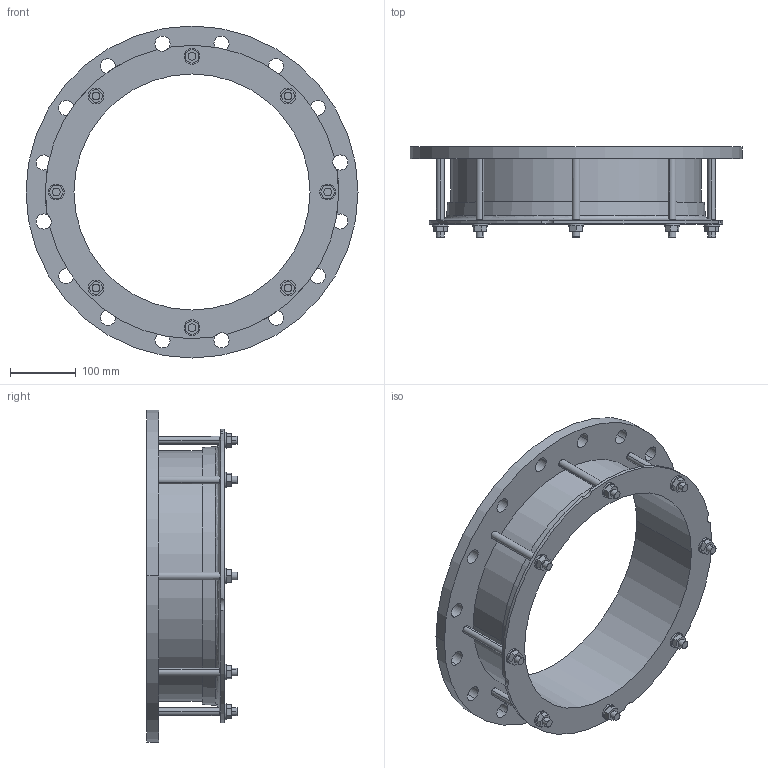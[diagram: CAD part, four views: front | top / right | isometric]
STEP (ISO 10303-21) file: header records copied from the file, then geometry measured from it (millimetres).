
FILE_DESCRIPTION((''),'2;1');
FILE_NAME('355X350PN10_4NOT','2019-01-16T',('mfairey'),('Glynwed Pipe Systems'),'CREO PARAMETRIC BY PTC INC, 2016130','CREO PARAMETRIC BY PTC INC, 2016130','');
FILE_SCHEMA(('CONFIG_CONTROL_DESIGN'));
Length unit declared in the file: millimetre
Products named in the file (1): 355X350PN10_4NOT
Bounding box: 505 x 137.45 x 505 mm (x, y, z)
Volume: 3527149.1 mm3; surface area: 599005.2 mm2
Topology: 1 solids, 1 shells, 176 faces, 466 edges, 310 vertices
Faces by surface type: cylinder 94, plane 76, cone 4, torus 2
Entity records: 6117 total; most frequent: CARTESIAN_POINT 1493, DIRECTION 962, ORIENTED_EDGE 932, EDGE_CURVE 466, AXIS2_PLACEMENT_3D 360, VERTEX_POINT 310, EDGE_LOOP 244, VECTOR 242
